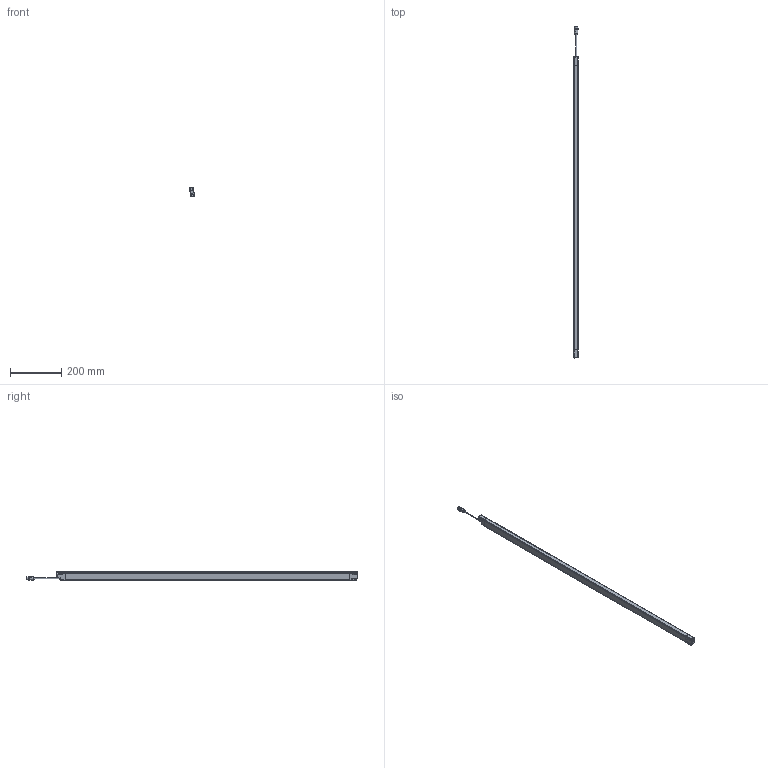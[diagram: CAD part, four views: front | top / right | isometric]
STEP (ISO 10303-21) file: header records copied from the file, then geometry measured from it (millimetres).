
FILE_DESCRIPTION(/* description */ (''),/* implementation_level */ '2;1');
FILE_NAME(/* name */ 'DSD-0654.stp',/* time_stamp */ '2015-02-23T17:56:03+01:00',/* author */ (''),/* organization */ (''),/* preprocessor_version */ 'ST-DEVELOPER v11',/* originating_system */ 'SIEMENS PLM Software NX 7.5',/* authorisation */ '');
FILE_SCHEMA (('AUTOMOTIVE_DESIGN { 1 0 10303 214 1 1 1 1 }'));
Length unit declared in the file: millimetre
Products named in the file (1): AP008176_00
Bounding box: 17.36 x 1290.24 x 33.46 mm (x, y, z)
Surface area: 138916.8 mm2 (no closed solid volume)
Topology: 0 solids, 32 shells, 973 faces, 3488 edges, 2433 vertices
Faces by surface type: cylinder 376, plane 272, bspline 138, torus 103, sphere 56, cone 28
Full cylindrical faces by diameter (mm): 1 x5, 1.2 x2, 2.6 x6, 4 x1, 8.3 x1, 9.4 x1, 10.4 x1, 12 x1, 13 x1, 13.5 x1, 14.5 x2
Entity records: 42508 total; most frequent: CARTESIAN_POINT 13505, DIRECTION 6255, ORIENTED_EDGE 5326, EDGE_CURVE 3385, VERTEX_POINT 2409, AXIS2_PLACEMENT_3D 2359, LINE 1537, VECTOR 1537
